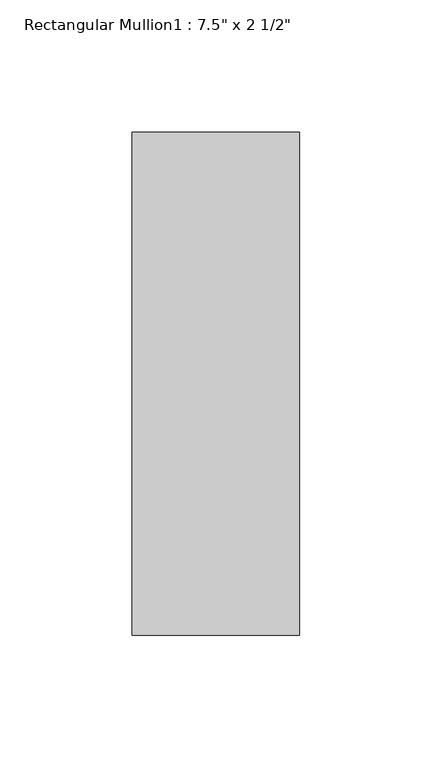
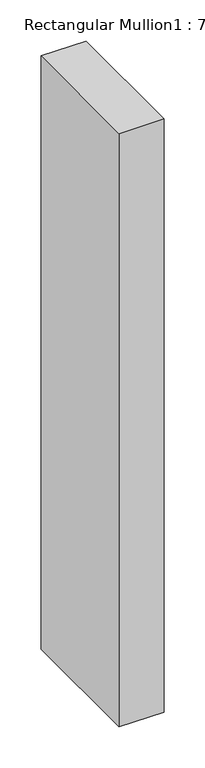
"""IFC4 building model written with IfcOpenShell, lengths in millimetres: member geometry."""

import ifcopenshell
import ifcopenshell.guid

model = None  # the IFC model being written
_history = None  # IfcOwnerHistory: only IFC2X3 demands one
_inside = {}  # id of a spatial element -> (the spatial element, [elements in it])
_under = {}  # id of a project, library or spatial element -> (it, [spatial elements below it])
_declared = {}  # id of a project -> (the project, [libraries it declares])
_typed = {}  # id of a type object -> (the type object, [elements of that type])
_made_of = {}  # id of a material, layer set ... -> (it, [elements and type objects made of it])


def new_model(schema):
    """Start an empty IFC model of exactly this schema.

    Asked for "IFC4X3", IfcOpenShell would pick the latest addendum, in which some entities
    have other attributes; the version numbers below select the first issue.
    IFC2X3 requires an IfcOwnerHistory on every rooted entity: one is made here for all.
    """
    global model, _history
    if schema == "IFC4X3":
        model = ifcopenshell.file(schema_version=(4, 3, 0, 0))
    else:
        model = ifcopenshell.file(schema=schema)
    _inside.clear()
    _under.clear()
    _declared.clear()
    _typed.clear()
    _made_of.clear()
    _history = None
    if model.schema == "IFC2X3":
        org = make("IfcOrganization", Name="unknown")
        user = make(
            "IfcPersonAndOrganization",
            ThePerson=make("IfcPerson", FamilyName="unknown"),
            TheOrganization=org,
        )
        app = make(
            "IfcApplication",
            ApplicationDeveloper=org,
            Version="unknown",
            ApplicationFullName="unknown",
            ApplicationIdentifier="unknown",
        )
        _history = make(
            "IfcOwnerHistory",
            OwningUser=user,
            OwningApplication=app,
            ChangeAction="ADDED",
            CreationDate=0,
        )
    return model


def make(cls, **values):
    """One entity of the class cls with the attributes given. An attribute that is None is left unset."""
    return model.create_entity(
        cls, **{name: value for name, value in values.items() if value is not None}
    )


def rooted(cls, **values):
    """An entity with a GlobalId (a new one), such as an element, a storey or a relation."""
    return make(cls, GlobalId=ifcopenshell.guid.new(), OwnerHistory=_history, **values)


def si_unit(unit_type, name, prefix=None):
    """IfcSIUnit, for example si_unit("LENGTHUNIT", "METRE", prefix="MILLI")."""
    return make("IfcSIUnit", UnitType=unit_type, Prefix=prefix, Name=name)


def assignment(units):
    """IfcUnitAssignment: the units of a project."""
    return None if units is None else make("IfcUnitAssignment", Units=units)


def point(xyz):
    """IfcCartesianPoint."""
    return None if xyz is None else make("IfcCartesianPoint", Coordinates=xyz)


def direction(xyz):
    """IfcDirection."""
    return None if xyz is None else make("IfcDirection", DirectionRatios=xyz)


def frame(location, z_axis=None, x_axis=None):
    """IfcAxis2Placement3D, a coordinate frame: its origin and axes. An axis left out is left unset."""
    return make(
        "IfcAxis2Placement3D",
        Location=point(location),
        Axis=direction(z_axis),
        RefDirection=direction(x_axis),
    )


def origin():
    """The frame at (0, 0, 0) with its axes left unset."""
    return frame((0.0, 0.0, 0.0))


def place(relative_to, where):
    """IfcLocalPlacement: puts the frame where relative to a parent placement (None: the world)."""
    return make(
        "IfcLocalPlacement", PlacementRelTo=relative_to, RelativePlacement=where
    )


def context(
    kind, dimensions, precision=None, world=None, true_north=None, identifier=None
):
    """IfcGeometricRepresentationContext, for example the 3D "Model" context."""
    return make(
        "IfcGeometricRepresentationContext",
        ContextIdentifier=identifier,
        ContextType=kind,
        CoordinateSpaceDimension=dimensions,
        Precision=precision,
        WorldCoordinateSystem=world,
        TrueNorth=true_north,
    )


def project(units=None, contexts=None):
    """IfcProject with its units and contexts."""
    return rooted(
        "IfcProject",
        Name="project",
        RepresentationContexts=contexts,
        UnitsInContext=assignment(units),
    )


def spatial(cls, under=None, at=None, **own):
    """A site, building, storey or space (cls), placed at a placement, below another one or the project."""
    s = rooted(cls, ObjectPlacement=at, **own)
    if under is not None:
        _under.setdefault(under.id(), (under, []))[1].append(s)
    return s


def polyline(points):
    """IfcPolyline through the points."""
    return make("IfcPolyline", Points=[point(p) for p in points])


def outline(outer, holes=None, kind="AREA"):
    """IfcArbitraryClosedProfileDef: a profile drawn as a closed curve; with holes, ...WithVoids."""
    if holes is None:
        return make("IfcArbitraryClosedProfileDef", ProfileType=kind, OuterCurve=outer)
    return make(
        "IfcArbitraryProfileDefWithVoids",
        ProfileType=kind,
        OuterCurve=outer,
        InnerCurves=holes,
    )


def extrude(swept, where, along, depth):
    """IfcExtrudedAreaSolid: the profile swept, set in the frame where, extruded along a direction by depth."""
    return make(
        "IfcExtrudedAreaSolid",
        SweptArea=swept,
        Position=where,
        ExtrudedDirection=direction(along),
        Depth=depth,
    )


def shape(context_of_items, identifier, shape_type, items):
    """IfcShapeRepresentation: the items that make up one representation, for example the "Body"."""
    return make(
        "IfcShapeRepresentation",
        ContextOfItems=context_of_items,
        RepresentationIdentifier=identifier,
        RepresentationType=shape_type,
        Items=items,
    )


def source(mapping_origin, context_of_items, identifier, shape_type, items):
    """IfcRepresentationMap: a shape defined once, which mapped items show again and again."""
    return make(
        "IfcRepresentationMap",
        MappingOrigin=mapping_origin,
        MappedRepresentation=shape(context_of_items, identifier, shape_type, items),
    )


def transform(
    local_origin,
    x_axis=None,
    y_axis=None,
    z_axis=None,
    scale=None,
    scale2=None,
    scale3=None,
    uniform=True,
):
    """IfcCartesianTransformationOperator3D, or its non-uniform kind. x_axis, y_axis, z_axis: its Axis1, 2, 3."""
    if uniform:
        return make(
            "IfcCartesianTransformationOperator3D",
            Axis1=direction(x_axis),
            Axis2=direction(y_axis),
            LocalOrigin=point(local_origin),
            Scale=scale,
            Axis3=direction(z_axis),
        )
    return make(
        "IfcCartesianTransformationOperator3DnonUniform",
        Axis1=direction(x_axis),
        Axis2=direction(y_axis),
        LocalOrigin=point(local_origin),
        Scale=scale,
        Axis3=direction(z_axis),
        Scale2=scale2,
        Scale3=scale3,
    )


def mapped(mapping_source, mapping_target):
    """IfcMappedItem: shows the shape of a source again, moved by a transform."""
    return make(
        "IfcMappedItem", MappingSource=mapping_source, MappingTarget=mapping_target
    )


def made_of(thing, what):
    """Note that an element or type object is made of a material, layer set ...; save() writes the relation."""
    if what is not None:
        _made_of.setdefault(what.id(), (what, []))[1].append(thing)
    return thing


def element(
    cls,
    number,
    at=None,
    inside=None,
    cuts=None,
    type_object=None,
    material=None,
    context=None,
    identifier="Body",
    shape_type=None,
    held_by="IfcProductDefinitionShape",
    body=None,
    shapes=None,
    **own,
):
    """One element of the class cls, such as IfcWall. Its Tag is "e" and its number.

    at: its placement. inside: the storey or other place that contains it. cuts: it is an
    opening in that element (IfcRelVoidsElement). A single representation is given by context,
    identifier, shape_type and body (its items); several are given by shapes. held_by: the class
    of the entity that holds the representations. save() writes the other relations.
    """
    e = rooted(cls, Tag="e%d" % number, ObjectPlacement=at, **own)
    if body is not None:
        shapes = [shape(context, identifier, shape_type, body)]
    if shapes is not None:
        e.Representation = make(held_by, Representations=shapes)
    if inside is not None:
        _inside.setdefault(inside.id(), (inside, []))[1].append(e)
    if cuts is not None:
        rooted(
            "IfcRelVoidsElement", RelatingBuildingElement=cuts, RelatedOpeningElement=e
        )
    if type_object is not None:
        _typed.setdefault(type_object.id(), (type_object, []))[1].append(e)
    return made_of(e, material)


def aggregate(whole, parts):
    """IfcRelAggregates: a whole, such as a stair, and the parts it consists of."""
    return rooted("IfcRelAggregates", RelatingObject=whole, RelatedObjects=parts)


def save(model, path):
    """Write the relations noted so far, then the file.

    IfcRelAggregates (storeys below a building ...), IfcRelContainedInSpatialStructure (elements
    in a storey), IfcRelDefinesByType, IfcRelAssociatesMaterial and IfcRelDeclares: one each for
    every whole, place, type object, material and project.
    """
    for whole, parts in _under.values():
        aggregate(whole, parts)
    for where, things in _inside.values():
        rooted(
            "IfcRelContainedInSpatialStructure",
            RelatedElements=things,
            RelatingStructure=where,
        )
    for kind, things in _typed.values():
        rooted("IfcRelDefinesByType", RelatedObjects=things, RelatingType=kind)
    for what, things in _made_of.values():
        rooted("IfcRelAssociatesMaterial", RelatedObjects=things, RelatingMaterial=what)
    for by, libraries in _declared.values():
        rooted("IfcRelDeclares", RelatingContext=by, RelatedDefinitions=libraries)
    model.write(path)


def member_f6f7a4f1(model_context):
    return source(origin(), model_context, "Body", "SweptSolid", [
        extrude(outline(polyline([(31.75, 165.1), (31.75, -25.4), (-31.75, -25.4), (-31.75, 165.1), (31.75, 165.1)])), frame((0.0, 0.0, -882.65), z_axis=(0.0, 0.0, 1.0), x_axis=(1.0, 0.0, 0.0)), (0.0, 0.0, 1.0), 882.65),
    ])


if __name__ == "__main__":
    model = new_model("IFC4")
    model_context = context("Model", 3, world=origin())
    ifc_project = project(units=[si_unit("LENGTHUNIT", "METRE", prefix="MILLI")], contexts=[model_context])
    site = spatial("IfcSite", under=ifc_project)
    building = spatial("IfcBuilding", under=site)
    placement = place(None, origin())
    member_shape = member_f6f7a4f1(model_context)
    element("IfcMember", 1, ObjectType="Rectangular Mullion1 : 7.5\" x 2 1/2\"", at=placement, inside=building, context=model_context, shape_type="MappedRepresentation", body=[
        mapped(member_shape, transform((0.0, 0.0, 0.0), x_axis=(1.0, 0.0, 0.0), y_axis=(0.0, 1.0, 0.0), z_axis=(0.0, 0.0, 1.0))),
    ])
    save(model, "model.ifc")
